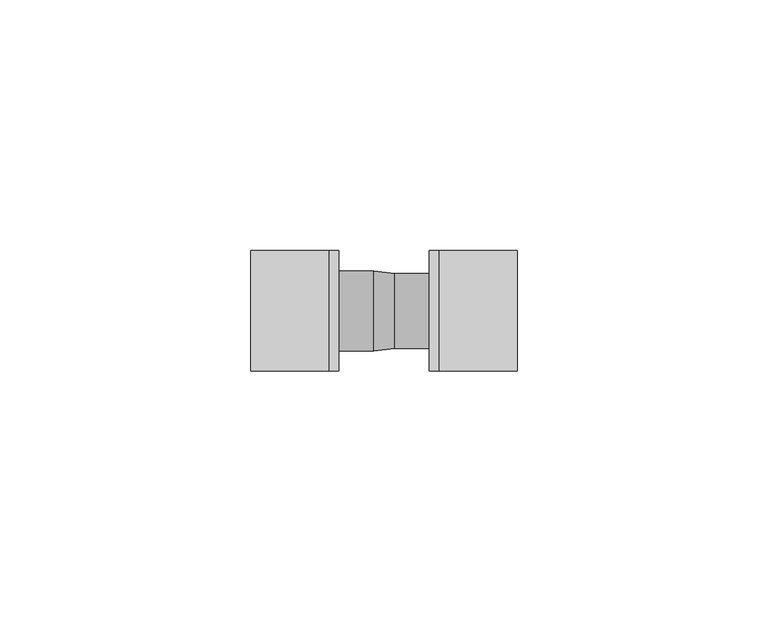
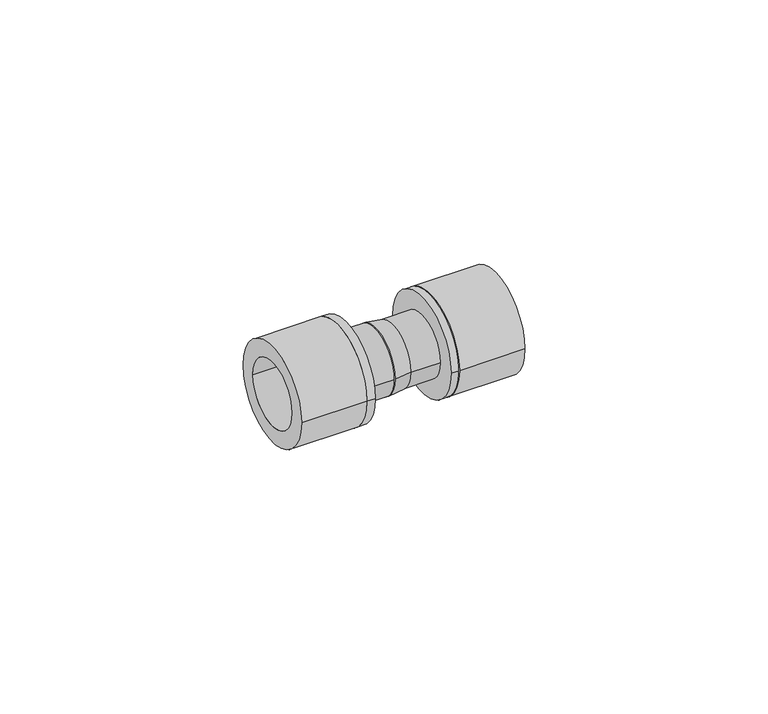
"""IFC4 building model written with IfcOpenShell, lengths in millimetres: pipe fitting geometry, ADSK_Пресс-фитинг ПЭ_Муфта переходная : Пластик черный."""

import ifcopenshell
import ifcopenshell.guid

model = None  # the IFC model being written
_history = None  # IfcOwnerHistory: only IFC2X3 demands one
_inside = {}  # id of a spatial element -> (the spatial element, [elements in it])
_under = {}  # id of a project, library or spatial element -> (it, [spatial elements below it])
_declared = {}  # id of a project -> (the project, [libraries it declares])
_typed = {}  # id of a type object -> (the type object, [elements of that type])
_made_of = {}  # id of a material, layer set ... -> (it, [elements and type objects made of it])


def new_model(schema):
    """Start an empty IFC model of exactly this schema.

    Asked for "IFC4X3", IfcOpenShell would pick the latest addendum, in which some entities
    have other attributes; the version numbers below select the first issue.
    IFC2X3 requires an IfcOwnerHistory on every rooted entity: one is made here for all.
    """
    global model, _history
    if schema == "IFC4X3":
        model = ifcopenshell.file(schema_version=(4, 3, 0, 0))
    else:
        model = ifcopenshell.file(schema=schema)
    _inside.clear()
    _under.clear()
    _declared.clear()
    _typed.clear()
    _made_of.clear()
    _history = None
    if model.schema == "IFC2X3":
        org = make("IfcOrganization", Name="unknown")
        user = make(
            "IfcPersonAndOrganization",
            ThePerson=make("IfcPerson", FamilyName="unknown"),
            TheOrganization=org,
        )
        app = make(
            "IfcApplication",
            ApplicationDeveloper=org,
            Version="unknown",
            ApplicationFullName="unknown",
            ApplicationIdentifier="unknown",
        )
        _history = make(
            "IfcOwnerHistory",
            OwningUser=user,
            OwningApplication=app,
            ChangeAction="ADDED",
            CreationDate=0,
        )
    return model


def make(cls, **values):
    """One entity of the class cls with the attributes given. An attribute that is None is left unset."""
    return model.create_entity(
        cls, **{name: value for name, value in values.items() if value is not None}
    )


def rooted(cls, **values):
    """An entity with a GlobalId (a new one), such as an element, a storey or a relation."""
    return make(cls, GlobalId=ifcopenshell.guid.new(), OwnerHistory=_history, **values)


def si_unit(unit_type, name, prefix=None):
    """IfcSIUnit, for example si_unit("LENGTHUNIT", "METRE", prefix="MILLI")."""
    return make("IfcSIUnit", UnitType=unit_type, Prefix=prefix, Name=name)


def assignment(units):
    """IfcUnitAssignment: the units of a project."""
    return None if units is None else make("IfcUnitAssignment", Units=units)


def point(xyz):
    """IfcCartesianPoint."""
    return None if xyz is None else make("IfcCartesianPoint", Coordinates=xyz)


def direction(xyz):
    """IfcDirection."""
    return None if xyz is None else make("IfcDirection", DirectionRatios=xyz)


def frame(location, z_axis=None, x_axis=None):
    """IfcAxis2Placement3D, a coordinate frame: its origin and axes. An axis left out is left unset."""
    return make(
        "IfcAxis2Placement3D",
        Location=point(location),
        Axis=direction(z_axis),
        RefDirection=direction(x_axis),
    )


def frame_2d(location, x_axis=None):
    """IfcAxis2Placement2D, a coordinate frame in the plane: its origin and x axis."""
    return make(
        "IfcAxis2Placement2D", Location=point(location), RefDirection=direction(x_axis)
    )


def origin():
    """The frame at (0, 0, 0) with its axes left unset."""
    return frame((0.0, 0.0, 0.0))


def origin_2d():
    """The frame at (0, 0) in the plane with its x axis left unset."""
    return frame_2d((0.0, 0.0))


def place(relative_to, where):
    """IfcLocalPlacement: puts the frame where relative to a parent placement (None: the world)."""
    return make(
        "IfcLocalPlacement", PlacementRelTo=relative_to, RelativePlacement=where
    )


def context(
    kind, dimensions, precision=None, world=None, true_north=None, identifier=None
):
    """IfcGeometricRepresentationContext, for example the 3D "Model" context."""
    return make(
        "IfcGeometricRepresentationContext",
        ContextIdentifier=identifier,
        ContextType=kind,
        CoordinateSpaceDimension=dimensions,
        Precision=precision,
        WorldCoordinateSystem=world,
        TrueNorth=true_north,
    )


def project(units=None, contexts=None):
    """IfcProject with its units and contexts."""
    return rooted(
        "IfcProject",
        Name="project",
        RepresentationContexts=contexts,
        UnitsInContext=assignment(units),
    )


def spatial(cls, under=None, at=None, **own):
    """A site, building, storey or space (cls), placed at a placement, below another one or the project."""
    s = rooted(cls, ObjectPlacement=at, **own)
    if under is not None:
        _under.setdefault(under.id(), (under, []))[1].append(s)
    return s


def polyline(points):
    """IfcPolyline through the points."""
    return make("IfcPolyline", Points=[point(p) for p in points])


def circle_curve(where, radius):
    """IfcCircle in the frame where."""
    return make("IfcCircle", Position=where, Radius=radius)


def trimmed(basis, trim1, trim2, sense, master):
    """IfcTrimmedCurve: the piece of a basis curve between two trims."""
    return make(
        "IfcTrimmedCurve",
        BasisCurve=basis,
        Trim1=trim1,
        Trim2=trim2,
        SenseAgreement=sense,
        MasterRepresentation=master,
    )


def segment(curve, same_sense, transition):
    """IfcCompositeCurveSegment."""
    return make(
        "IfcCompositeCurveSegment",
        Transition=transition,
        SameSense=same_sense,
        ParentCurve=curve,
    )


def composite_curve(segments, self_intersect=None):
    """IfcCompositeCurve: segments joined end to end."""
    return make("IfcCompositeCurve", Segments=segments, SelfIntersect=self_intersect)


def outline(outer, holes=None, kind="AREA"):
    """IfcArbitraryClosedProfileDef: a profile drawn as a closed curve; with holes, ...WithVoids."""
    if holes is None:
        return make("IfcArbitraryClosedProfileDef", ProfileType=kind, OuterCurve=outer)
    return make(
        "IfcArbitraryProfileDefWithVoids",
        ProfileType=kind,
        OuterCurve=outer,
        InnerCurves=holes,
    )


def extrude(swept, where, along, depth):
    """IfcExtrudedAreaSolid: the profile swept, set in the frame where, extruded along a direction by depth."""
    return make(
        "IfcExtrudedAreaSolid",
        SweptArea=swept,
        Position=where,
        ExtrudedDirection=direction(along),
        Depth=depth,
    )


def shape(context_of_items, identifier, shape_type, items):
    """IfcShapeRepresentation: the items that make up one representation, for example the "Body"."""
    return make(
        "IfcShapeRepresentation",
        ContextOfItems=context_of_items,
        RepresentationIdentifier=identifier,
        RepresentationType=shape_type,
        Items=items,
    )


def source(mapping_origin, context_of_items, identifier, shape_type, items):
    """IfcRepresentationMap: a shape defined once, which mapped items show again and again."""
    return make(
        "IfcRepresentationMap",
        MappingOrigin=mapping_origin,
        MappedRepresentation=shape(context_of_items, identifier, shape_type, items),
    )


def transform(
    local_origin,
    x_axis=None,
    y_axis=None,
    z_axis=None,
    scale=None,
    scale2=None,
    scale3=None,
    uniform=True,
):
    """IfcCartesianTransformationOperator3D, or its non-uniform kind. x_axis, y_axis, z_axis: its Axis1, 2, 3."""
    if uniform:
        return make(
            "IfcCartesianTransformationOperator3D",
            Axis1=direction(x_axis),
            Axis2=direction(y_axis),
            LocalOrigin=point(local_origin),
            Scale=scale,
            Axis3=direction(z_axis),
        )
    return make(
        "IfcCartesianTransformationOperator3DnonUniform",
        Axis1=direction(x_axis),
        Axis2=direction(y_axis),
        LocalOrigin=point(local_origin),
        Scale=scale,
        Axis3=direction(z_axis),
        Scale2=scale2,
        Scale3=scale3,
    )


def mapped(mapping_source, mapping_target):
    """IfcMappedItem: shows the shape of a source again, moved by a transform."""
    return make(
        "IfcMappedItem", MappingSource=mapping_source, MappingTarget=mapping_target
    )


def made_of(thing, what):
    """Note that an element or type object is made of a material, layer set ...; save() writes the relation."""
    if what is not None:
        _made_of.setdefault(what.id(), (what, []))[1].append(thing)
    return thing


def element(
    cls,
    number,
    at=None,
    inside=None,
    cuts=None,
    type_object=None,
    material=None,
    context=None,
    identifier="Body",
    shape_type=None,
    held_by="IfcProductDefinitionShape",
    body=None,
    shapes=None,
    **own,
):
    """One element of the class cls, such as IfcWall. Its Tag is "e" and its number.

    at: its placement. inside: the storey or other place that contains it. cuts: it is an
    opening in that element (IfcRelVoidsElement). A single representation is given by context,
    identifier, shape_type and body (its items); several are given by shapes. held_by: the class
    of the entity that holds the representations. save() writes the other relations.
    """
    e = rooted(cls, Tag="e%d" % number, ObjectPlacement=at, **own)
    if body is not None:
        shapes = [shape(context, identifier, shape_type, body)]
    if shapes is not None:
        e.Representation = make(held_by, Representations=shapes)
    if inside is not None:
        _inside.setdefault(inside.id(), (inside, []))[1].append(e)
    if cuts is not None:
        rooted(
            "IfcRelVoidsElement", RelatingBuildingElement=cuts, RelatedOpeningElement=e
        )
    if type_object is not None:
        _typed.setdefault(type_object.id(), (type_object, []))[1].append(e)
    return made_of(e, material)


def aggregate(whole, parts):
    """IfcRelAggregates: a whole, such as a stair, and the parts it consists of."""
    return rooted("IfcRelAggregates", RelatingObject=whole, RelatedObjects=parts)


def save(model, path):
    """Write the relations noted so far, then the file.

    IfcRelAggregates (storeys below a building ...), IfcRelContainedInSpatialStructure (elements
    in a storey), IfcRelDefinesByType, IfcRelAssociatesMaterial and IfcRelDeclares: one each for
    every whole, place, type object, material and project.
    """
    for whole, parts in _under.values():
        aggregate(whole, parts)
    for where, things in _inside.values():
        rooted(
            "IfcRelContainedInSpatialStructure",
            RelatedElements=things,
            RelatingStructure=where,
        )
    for kind, things in _typed.values():
        rooted("IfcRelDefinesByType", RelatedObjects=things, RelatingType=kind)
    for what, things in _made_of.values():
        rooted("IfcRelAssociatesMaterial", RelatedObjects=things, RelatingMaterial=what)
    for by, libraries in _declared.values():
        rooted("IfcRelDeclares", RelatingContext=by, RelatedDefinitions=libraries)
    model.write(path)


def plane_surface(at):
    """IfcPlane: the flat surface through the origin of the frame at, square to its z axis."""
    return make("IfcPlane", Position=at)


def revolved_surface(curve, axis_point, axis_direction):
    """IfcSurfaceOfRevolution: the curve turned about the line through axis_point along axis_direction."""
    return make(
        "IfcSurfaceOfRevolution",
        SweptCurve=make("IfcArbitraryOpenProfileDef", ProfileType="CURVE", Curve=curve),
        AxisPosition=make("IfcAxis1Placement", Location=point(axis_point), Axis=direction(axis_direction)),
    )


def advanced_brep(points, edges, surfaces, faces):
    """IfcAdvancedBrep: a solid bounded by faces that lie on surfaces and meet in shared edges.

    An edge is (start, end): straight between two places in points (the first is 0);
    or (start, end, curve); or (start, end, curve, False) where it runs against its curve.
    A face is (place in surfaces, loops), or (place, loops, False) where it looks against
    its surface's normal. A loop lists edges by number (the first is 1), with a minus sign
    where the edge is run from its end to its start. The first loop is the outer one.
    """
    corners = [point(p) for p in points]
    vertices = [make("IfcVertexPoint", VertexGeometry=c) for c in corners]
    made = []
    for start, end, *more in edges:
        made.append(
            make(
                "IfcEdgeCurve",
                EdgeStart=vertices[start],
                EdgeEnd=vertices[end],
                EdgeGeometry=more[0] if more else make("IfcPolyline", Points=[corners[start], corners[end]]),
                SameSense=more[1] if len(more) > 1 else True,
            )
        )
    hull = []
    for where, loops, *sense in faces:
        bounds = []
        for j, loop in enumerate(loops):
            ring = [make("IfcOrientedEdge", EdgeElement=made[abs(k) - 1], Orientation=k > 0) for k in loop]
            bounds.append(
                make(
                    "IfcFaceOuterBound" if j == 0 else "IfcFaceBound",
                    Bound=make("IfcEdgeLoop", EdgeList=ring),
                    Orientation=True,
                )
            )
        hull.append(make("IfcAdvancedFace", Bounds=bounds, FaceSurface=surfaces[where], SameSense=sense[0] if sense else True))
    return make("IfcAdvancedBrep", Outer=make("IfcClosedShell", CfsFaces=hull))


def pipe_fitting_83c0b86e(model_context):
    return source(origin(), model_context, "Body", "SolidModel", [
        advanced_brep(
        [(2.0, 7.5, 0.0), (2.0, -7.5, 0.0), (-2.0, 8.0, 0.0), (-2.0, -8.0, 0.0)],
        [
            (0, 1, circle_curve(frame((2.0, 0.0, 0.0), z_axis=(1.0, 0.0, 0.0), x_axis=(0.0, -1.0, 0.0)), 7.5)),
            (1, 0, circle_curve(frame((2.0, 0.0, 0.0), z_axis=(1.0, 0.0, 0.0), x_axis=(0.0, 1.0, 0.0)), 7.5)),
            (2, 3, circle_curve(frame((-2.0, 0.0, 0.0), z_axis=(-1.0, 0.0, 0.0), x_axis=(0.0, 1.0, 0.0)), 8.0)),
            (3, 2, circle_curve(frame((-2.0, 0.0, 0.0), z_axis=(-1.0, 0.0, 0.0), x_axis=(0.0, -1.0, 0.0)), 8.0)),
            (2, 0),
            (1, 3),
        ],
        [
            plane_surface(frame((2.0, 0.0, 0.0), z_axis=(1.0, 0.0, 0.0), x_axis=(0.0, 0.0, -1.0))),
            plane_surface(frame((-2.0, 0.0, 0.0), z_axis=(-1.0, 0.0, 0.0), x_axis=(0.0, 0.0, -1.0))),
            revolved_surface(polyline([(2.0, 7.5, 0.0), (-2.0, 8.0, 0.0)]), (62.0, 0.0, 0.0), (-1.0, 0.0, 0.0)),
            revolved_surface(polyline([(2.0, -7.5, 0.0), (-2.0, -8.0, 0.0)]), (62.0, 0.0, 0.0), (-1.0, 0.0, 0.0)),
        ],
        [
            (0, [[1, 2]]),
            (1, [[3, 4]]),
            (2, [[5, -2, 6, -3]]),
            (3, [[-6, -1, -5, -4]]),
        ],
    ),
        extrude(outline(composite_curve([segment(trimmed(circle_curve(origin_2d(), 7.5), [point((7.5, 0.0))], [point((-7.5, 0.0))], False, "CARTESIAN"), True, "CONTINUOUS"), segment(trimmed(circle_curve(origin_2d(), 7.5), [point((-7.5, 0.0))], [point((7.5, 0.0))], False, "CARTESIAN"), True, "CONTINUOUS")], self_intersect=False)), frame((2.0, 0.0, 0.0), z_axis=(1.0, 0.0, 0.0), x_axis=(0.0, 1.0, 0.0)), (0.0, 0.0, 1.0), 7.0),
        extrude(outline(composite_curve([segment(trimmed(circle_curve(origin_2d(), 8.0), [point((8.0, 0.0))], [point((-8.0, 0.0))], False, "CARTESIAN"), True, "CONTINUOUS"), segment(trimmed(circle_curve(origin_2d(), 8.0), [point((-8.0, 0.0))], [point((8.0, 0.0))], False, "CARTESIAN"), True, "CONTINUOUS")], self_intersect=False)), frame((-9.0, 0.0, 0.0), z_axis=(1.0, 0.0, 0.0), x_axis=(0.0, 1.0, 0.0)), (0.0, 0.0, 1.0), 7.0),
        extrude(outline(composite_curve([segment(trimmed(circle_curve(origin_2d(), 12.0), [point((12.0, 0.0))], [point((-12.0, 0.0))], False, "CARTESIAN"), True, "CONTINUOUS"), segment(trimmed(circle_curve(origin_2d(), 12.0), [point((-12.0, 0.0))], [point((12.0, 0.0))], False, "CARTESIAN"), True, "CONTINUOUS")], self_intersect=False), holes=[composite_curve([segment(trimmed(circle_curve(origin_2d(), 7.5), [point((7.5, 0.0))], [point((-7.5, 0.0))], True, "CARTESIAN"), True, "CONTINUOUS"), segment(trimmed(circle_curve(origin_2d(), 7.5), [point((-7.5, 0.0))], [point((7.5, 0.0))], True, "CARTESIAN"), True, "CONTINUOUS")], self_intersect=False)]), frame((11.0, 0.0, 0.0), z_axis=(1.0, 0.0, 0.0), x_axis=(0.0, 1.0, 0.0)), (0.0, 0.0, 1.0), 15.5),
        extrude(outline(composite_curve([segment(trimmed(circle_curve(origin_2d(), 12.0), [point((12.0, 0.0))], [point((-12.0, 0.0))], False, "CARTESIAN"), True, "CONTINUOUS"), segment(trimmed(circle_curve(origin_2d(), 12.0), [point((-12.0, 0.0))], [point((12.0, 0.0))], False, "CARTESIAN"), True, "CONTINUOUS")], self_intersect=False), holes=[composite_curve([segment(trimmed(circle_curve(origin_2d(), 8.0), [point((8.0, 0.0))], [point((-8.0, 0.0))], True, "CARTESIAN"), True, "CONTINUOUS"), segment(trimmed(circle_curve(origin_2d(), 8.0), [point((-8.0, 0.0))], [point((8.0, 0.0))], True, "CARTESIAN"), True, "CONTINUOUS")], self_intersect=False)]), frame((-26.5, 0.0, 0.0), z_axis=(1.0, 0.0, 0.0), x_axis=(0.0, 1.0, 0.0)), (0.0, 0.0, 1.0), 15.5),
        extrude(outline(composite_curve([segment(trimmed(circle_curve(origin_2d(), 12.0), [point((12.0, 0.0))], [point((-12.0, 0.0))], False, "CARTESIAN"), True, "CONTINUOUS"), segment(trimmed(circle_curve(origin_2d(), 12.0), [point((-12.0, 0.0))], [point((12.0, 0.0))], False, "CARTESIAN"), True, "CONTINUOUS")], self_intersect=False)), frame((9.0, 0.0, 0.0), z_axis=(1.0, 0.0, 0.0), x_axis=(0.0, 1.0, 0.0)), (0.0, 0.0, 1.0), 2.0),
        extrude(outline(composite_curve([segment(trimmed(circle_curve(origin_2d(), 12.0), [point((12.0, 0.0))], [point((-12.0, 0.0))], False, "CARTESIAN"), True, "CONTINUOUS"), segment(trimmed(circle_curve(origin_2d(), 12.0), [point((-12.0, 0.0))], [point((12.0, 0.0))], False, "CARTESIAN"), True, "CONTINUOUS")], self_intersect=False)), frame((-11.0, 0.0, 0.0), z_axis=(1.0, 0.0, 0.0), x_axis=(0.0, 1.0, 0.0)), (0.0, 0.0, 1.0), 2.0),
    ])


if __name__ == "__main__":
    model = new_model("IFC4")
    model_context = context("Model", 3, world=origin())
    ifc_project = project(units=[si_unit("LENGTHUNIT", "METRE", prefix="MILLI")], contexts=[model_context])
    site = spatial("IfcSite", under=ifc_project)
    building = spatial("IfcBuilding", under=site)
    placement = place(None, origin())
    pipe_fitting_shape = pipe_fitting_83c0b86e(model_context)
    element("IfcPipeFitting", 1, ObjectType="ADSK_Пресс-фитинг ПЭ_Муфта переходная : Пластик черный", at=placement, inside=building, context=model_context, shape_type="MappedRepresentation", body=[
        mapped(pipe_fitting_shape, transform((0.0, 0.0, 0.0), x_axis=(1.0, 0.0, 0.0), y_axis=(0.0, 1.0, 0.0), z_axis=(0.0, 0.0, 1.0))),
    ])
    save(model, "model.ifc")
